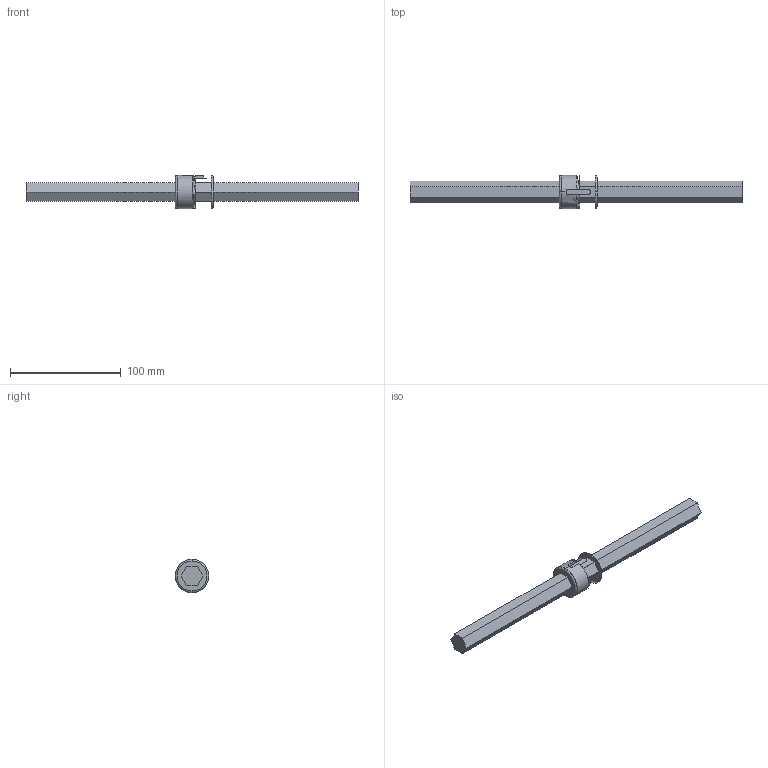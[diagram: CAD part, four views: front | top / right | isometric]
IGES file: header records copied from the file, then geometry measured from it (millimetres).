
Global section: file name: No Iges File Name specified; native system: AutoDesk Inventor R10; preprocessor: AutoDesk Inventor Iges Exporter R10; author: No Author specified; organization: No Organization specified; date: 20101224.163944; units: millimetre
Bounding box: 300 x 30 x 30 mm (x, y, z)
Surface area: 22892.8 mm2 (no closed solid volume)
Topology: 0 solids, 0 shells, 40 faces, 228 edges, 227 vertices
Faces by surface type: bspline 40
